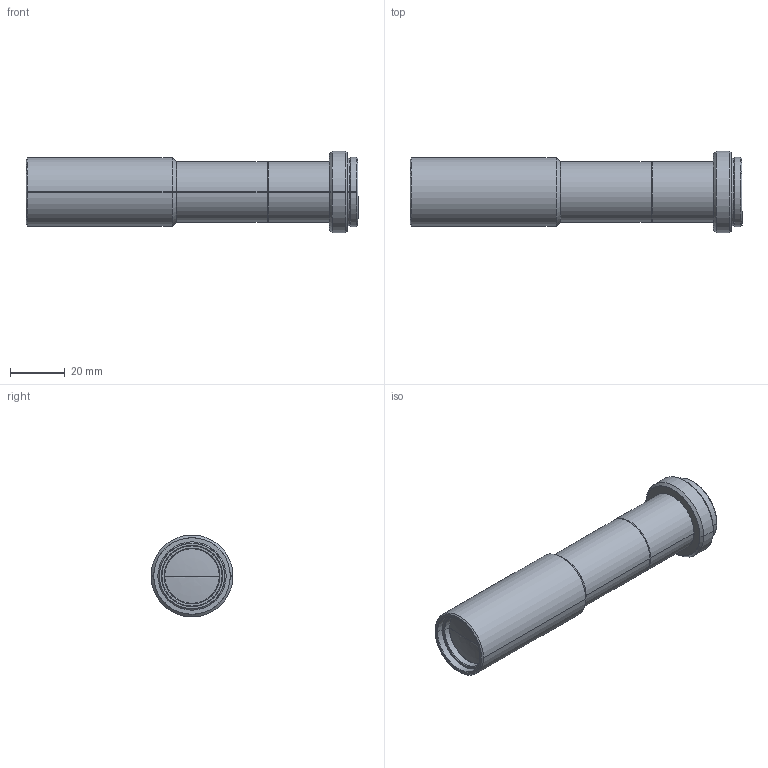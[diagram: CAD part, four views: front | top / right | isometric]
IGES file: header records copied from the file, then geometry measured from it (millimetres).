
Start section: SolidWorks IGES file using analytic representation for surfaces
Global section: file name: C:\Users\tsuji_vst\Documents\【作業フォルダ】\【3D】\00 VST\VS-TC\VS-TC08-170\VS-TC08-170.IGS; native system: SolidWorks 2018; preprocessor: SolidWorks 2018; author: tsuji_vst; date: 190115.092102; units: millimetre
Bounding box: 121.62 x 30 x 30 mm (x, y, z)
Surface area: 12965.1 mm2 (no closed solid volume)
Topology: 0 solids, 0 shells, 83 faces, 1024 edges, 1023 vertices
Faces by surface type: revolution 72, bspline 11
